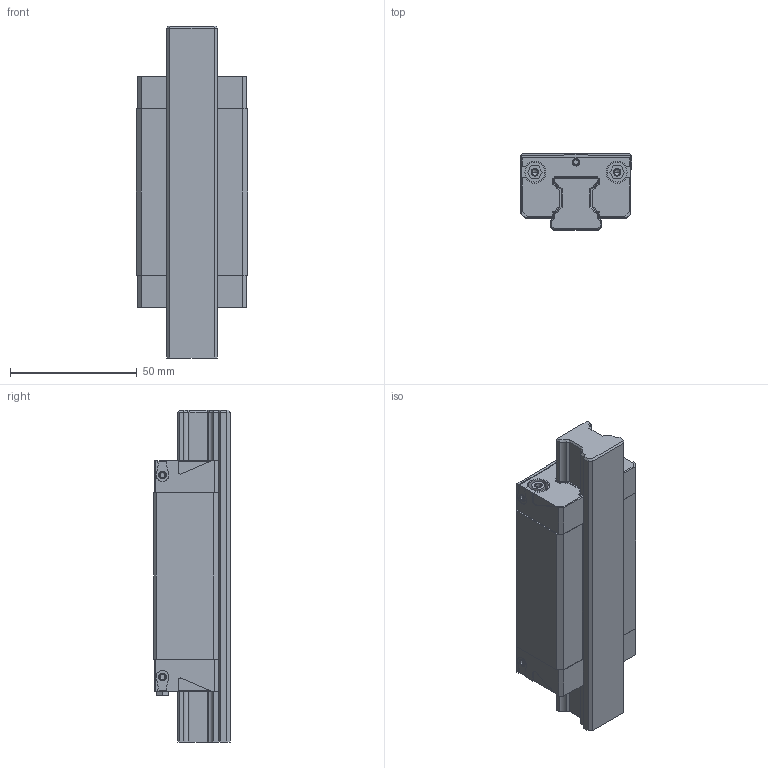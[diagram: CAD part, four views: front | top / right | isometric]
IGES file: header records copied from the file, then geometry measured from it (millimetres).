
Start section: 3D InterOp IGES (v. 2019 1.0.2), Spatial Corp. Copyright (c) 1999-2017.
Global section: file name: R1623_size20.igs; native system: Spatial Corp.; preprocessor: 3D InterOp GENERIC/IGES 3.0; author: Noname; organization: Noname; date: 20220629.124912; units: millimetre
Bounding box: 44 x 30 x 131 mm (x, y, z)
Surface area: 38974.6 mm2 (no closed solid volume)
Topology: 0 solids, 0 shells, 509 faces, 2670 edges, 2648 vertices
Faces by surface type: extrusion 291, revolution 218
